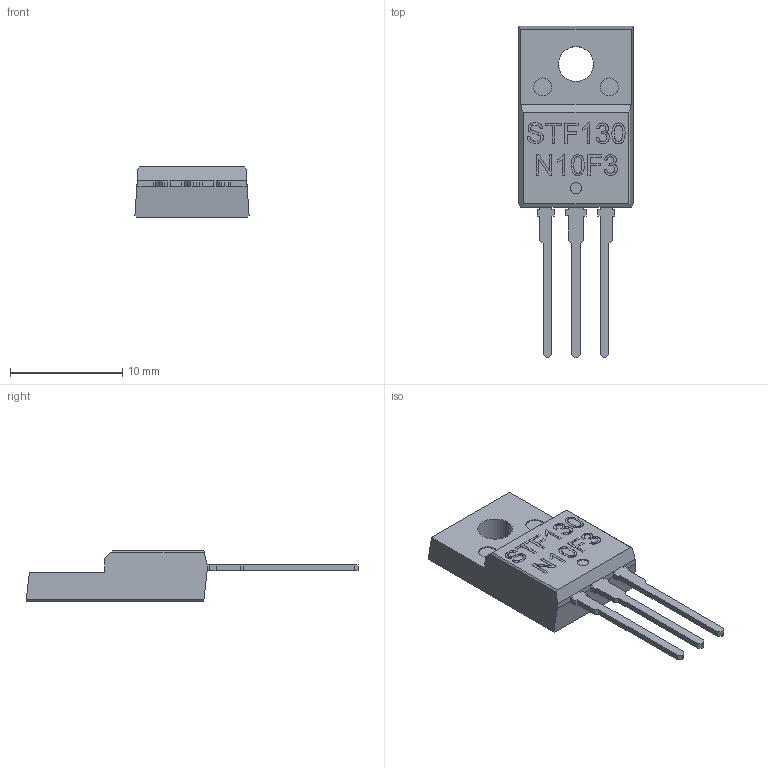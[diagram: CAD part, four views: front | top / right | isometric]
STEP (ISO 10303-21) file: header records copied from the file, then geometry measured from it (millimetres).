
FILE_DESCRIPTION (( 'STEP AP214' ), '1' );
FILE_NAME ('User Library-STF130N10F3 Transistors MOSFET N-Channel TO-220FP.STEP', '2020-11-02T09:58:02', ( '' ), ( '' ), 'SwSTEP 2.0', 'SolidWorks 2020', '' );
FILE_SCHEMA (( 'AUTOMOTIVE_DESIGN' ));
Length unit declared in the file: millimetre
Products named in the file (1): User Library-STF130N10F3 Transistors MOSFET N-Channel TO-220FP
Bounding box: 10.18 x 29.6 x 4.52 mm (x, y, z)
Volume: 575.6 mm3; surface area: 637.4 mm2
Topology: 1 solids, 1 shells, 217 faces, 585 edges, 386 vertices
Faces by surface type: plane 143, bspline 66, cylinder 8
Entity records: 9514 total; most frequent: CARTESIAN_POINT 2081, ORIENTED_EDGE 1170, DIRECTION 773, EDGE_CURVE 585, LINE 437, VECTOR 437, VERTEX_POINT 386, EDGE_LOOP 235
